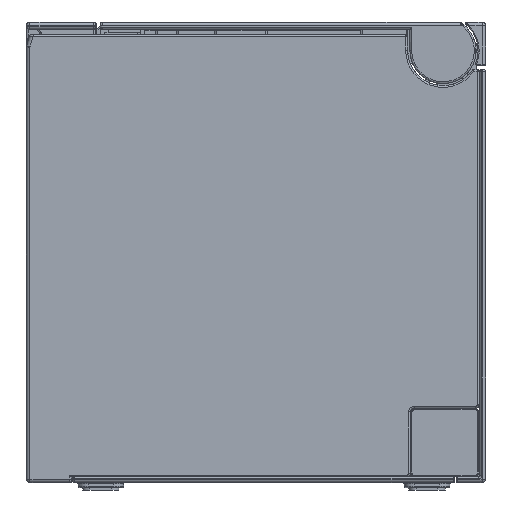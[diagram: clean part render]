
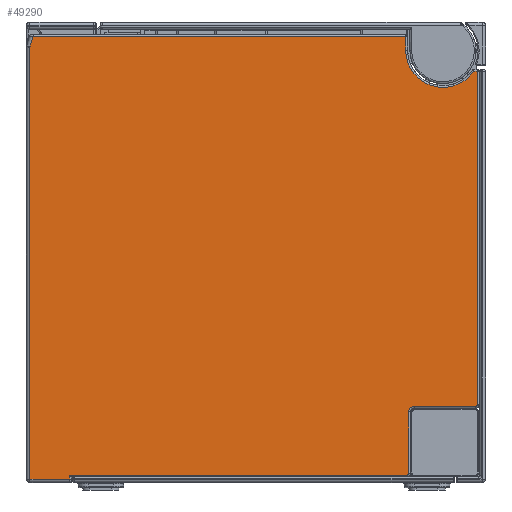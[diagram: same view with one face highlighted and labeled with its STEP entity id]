
A CAD part, left-side view. The second image highlights one B-rep face of the part: STEP entity #49290.
In plain terms, the highlighted planar face has unit normal (-1, 0, 0).
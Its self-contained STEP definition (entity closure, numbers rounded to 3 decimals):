
#33514=CARTESIAN_POINT('',(-31.5,21.7,14.452));
#37301=DIRECTION('',(0.,1.,0.));
#37302=VECTOR('',#37301,93.2);
#37303=CARTESIAN_POINT('',(-31.5,-82.5,-103.9));
#37304=LINE('',#37303,#37302);
#37305=DIRECTION('',(0.,-1.,0.));
#37306=VECTOR('',#37305,11.);
#37307=CARTESIAN_POINT('',(-31.5,21.7,-105.));
#37308=LINE('',#37307,#37306);
#37309=DIRECTION('',(0.,0.,1.));
#37310=VECTOR('',#37309,119.452);
#37311=CARTESIAN_POINT('',(-31.5,21.7,-105.));
#37312=LINE('',#37311,#37310);
#37313=DIRECTION('',(0.,0.29,-0.957));
#37314=VECTOR('',#37313,3.081);
#37315=CARTESIAN_POINT('',(-31.5,20.807,17.4));
#37316=LINE('',#37315,#37314);
#37317=DIRECTION('',(0.,1.,0.));
#37318=VECTOR('',#37317,103.007);
#37319=CARTESIAN_POINT('',(-31.5,-82.2,17.4));
#37320=LINE('',#37319,#37318);
#37321=DIRECTION('',(0.,0.,1.));
#37322=VECTOR('',#37321,3.8);
#37323=CARTESIAN_POINT('',(-31.5,-82.2,13.6));
#37324=LINE('',#37323,#37322);
#37325=CARTESIAN_POINT('',(-31.5,-92.5,13.6));
#37326=DIRECTION('',(1.,0.,0.));
#37327=DIRECTION('',(0.,-0.826,-0.563));
#37328=AXIS2_PLACEMENT_3D('',#37325,#37326,#37327);
#37330=DIRECTION('',(0.,1.,0.));
#37331=VECTOR('',#37330,0.988);
#37332=CARTESIAN_POINT('',(-31.5,-102.,7.8));
#37333=LINE('',#37332,#37331);
#37334=DIRECTION('',(0.,0.,-1.));
#37335=VECTOR('',#37334,92.2);
#37336=CARTESIAN_POINT('',(-31.5,-102.,7.8));
#37337=LINE('',#37336,#37335);
#37338=CARTESIAN_POINT('',(-31.5,-101.5,-84.4));
#37339=DIRECTION('',(1.,0.,0.));
#37340=DIRECTION('',(0.,-1.,0.));
#37341=AXIS2_PLACEMENT_3D('',#37338,#37339,#37340);
#37343=DIRECTION('',(0.,1.,0.));
#37344=VECTOR('',#37343,17.);
#37345=CARTESIAN_POINT('',(-31.5,-101.5,-84.9));
#37346=LINE('',#37345,#37344);
#37347=CARTESIAN_POINT('',(-31.5,-84.5,-86.4));
#37348=DIRECTION('',(-1.,0.,0.));
#37349=DIRECTION('',(0.,0.,1.));
#37350=AXIS2_PLACEMENT_3D('',#37347,#37348,#37349);
#37352=DIRECTION('',(0.,0.,-1.));
#37353=VECTOR('',#37352,17.);
#37354=CARTESIAN_POINT('',(-31.5,-83.,-86.4));
#37355=LINE('',#37354,#37353);
#37356=CARTESIAN_POINT('',(-31.5,-82.5,-103.4));
#37357=DIRECTION('',(1.,0.,0.));
#37358=DIRECTION('',(0.,-1.,0.));
#37359=AXIS2_PLACEMENT_3D('',#37356,#37357,#37358);
#37361=DIRECTION('',(0.,0.,1.));
#37362=VECTOR('',#37361,1.1);
#37363=CARTESIAN_POINT('',(-31.5,10.7,-105.));
#37364=LINE('',#37363,#37362);
#42514=CARTESIAN_POINT('',(-31.5,-82.5,-103.9));
#42515=CARTESIAN_POINT('',(-31.5,10.7,-103.9));
#42516=VERTEX_POINT('',#42514);
#42517=VERTEX_POINT('',#42515);
#42524=CARTESIAN_POINT('',(-31.5,10.7,-105.));
#42525=VERTEX_POINT('',#42524);
#43162=CARTESIAN_POINT('',(-31.5,-82.2,17.4));
#43163=CARTESIAN_POINT('',(-31.5,20.807,17.4));
#43164=VERTEX_POINT('',#43162);
#43165=VERTEX_POINT('',#43163);
#43168=CARTESIAN_POINT('',(-31.5,-82.2,13.6));
#43169=VERTEX_POINT('',#43168);
#43172=CARTESIAN_POINT('',(-31.5,-101.012,7.8));
#43173=VERTEX_POINT('',#43172);
#43376=CARTESIAN_POINT('',(-31.5,-102.,7.8));
#43377=VERTEX_POINT('',#43376);
#43380=CARTESIAN_POINT('',(-31.5,-102.,-84.4));
#43381=VERTEX_POINT('',#43380);
#43384=CARTESIAN_POINT('',(-31.5,-101.5,-84.9));
#43385=VERTEX_POINT('',#43384);
#43388=CARTESIAN_POINT('',(-31.5,-84.5,-84.9));
#43389=VERTEX_POINT('',#43388);
#43392=CARTESIAN_POINT('',(-31.5,-83.,-86.4));
#43393=VERTEX_POINT('',#43392);
#43396=CARTESIAN_POINT('',(-31.5,-83.,-103.4));
#43397=VERTEX_POINT('',#43396);
#43432=CARTESIAN_POINT('',(-31.5,21.7,-105.));
#43433=VERTEX_POINT('',#43432);
#43893=VERTEX_POINT('',#33514);
#49256=CARTESIAN_POINT('',(-31.5,-102.5,-106.));
#49257=DIRECTION('',(-1.,0.,0.));
#49258=DIRECTION('',(0.,0.,1.));
#49259=AXIS2_PLACEMENT_3D('',#49256,#49257,#49258);
#49260=PLANE('',#49259);
#49261=ORIENTED_EDGE('',*,*,#49246,.T.);
#49263=ORIENTED_EDGE('',*,*,#49262,.F.);
#49265=ORIENTED_EDGE('',*,*,#49264,.F.);
#49266=ORIENTED_EDGE('',*,*,#44876,.T.);
#49268=ORIENTED_EDGE('',*,*,#49267,.F.);
#49270=ORIENTED_EDGE('',*,*,#49269,.F.);
#49272=ORIENTED_EDGE('',*,*,#49271,.F.);
#49274=ORIENTED_EDGE('',*,*,#49273,.F.);
#49276=ORIENTED_EDGE('',*,*,#49275,.F.);
#49278=ORIENTED_EDGE('',*,*,#49277,.T.);
#49280=ORIENTED_EDGE('',*,*,#49279,.T.);
#49282=ORIENTED_EDGE('',*,*,#49281,.T.);
#49284=ORIENTED_EDGE('',*,*,#49283,.T.);
#49286=ORIENTED_EDGE('',*,*,#49285,.T.);
#49287=ORIENTED_EDGE('',*,*,#49234,.T.);
#49288=EDGE_LOOP('',(#49261,#49263,#49265,#49266,#49268,#49270,#49272,#49274,
#49276,#49278,#49280,#49282,#49284,#49286,#49287));
#49289=FACE_OUTER_BOUND('',#49288,.F.);
#37329=CIRCLE('',#37328,10.3);
#37342=CIRCLE('',#37341,0.5);
#37351=CIRCLE('',#37350,1.5);
#37360=CIRCLE('',#37359,0.5);
#44876=EDGE_CURVE('',#43433,#43893,#37312,.T.);
#49234=EDGE_CURVE('',#43397,#42516,#37360,.T.);
#49246=EDGE_CURVE('',#42516,#42517,#37304,.T.);
#49262=EDGE_CURVE('',#42525,#42517,#37364,.T.);
#49264=EDGE_CURVE('',#43433,#42525,#37308,.T.);
#49267=EDGE_CURVE('',#43165,#43893,#37316,.T.);
#49269=EDGE_CURVE('',#43164,#43165,#37320,.T.);
#49271=EDGE_CURVE('',#43169,#43164,#37324,.T.);
#49273=EDGE_CURVE('',#43173,#43169,#37329,.T.);
#49275=EDGE_CURVE('',#43377,#43173,#37333,.T.);
#49277=EDGE_CURVE('',#43377,#43381,#37337,.T.);
#49279=EDGE_CURVE('',#43381,#43385,#37342,.T.);
#49281=EDGE_CURVE('',#43385,#43389,#37346,.T.);
#49283=EDGE_CURVE('',#43389,#43393,#37351,.T.);
#49285=EDGE_CURVE('',#43393,#43397,#37355,.T.);
#49290=ADVANCED_FACE('',(#49289),#49260,.T.);
